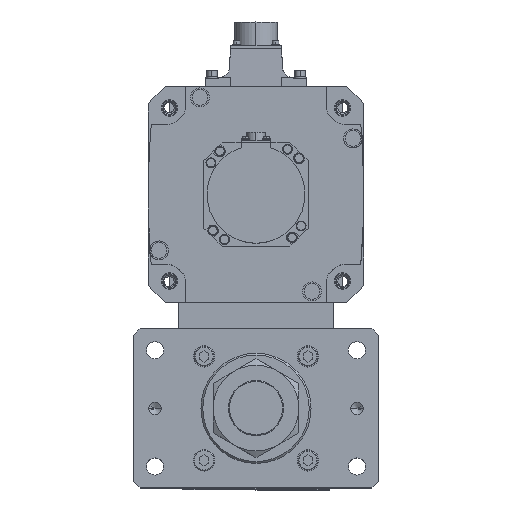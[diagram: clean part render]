
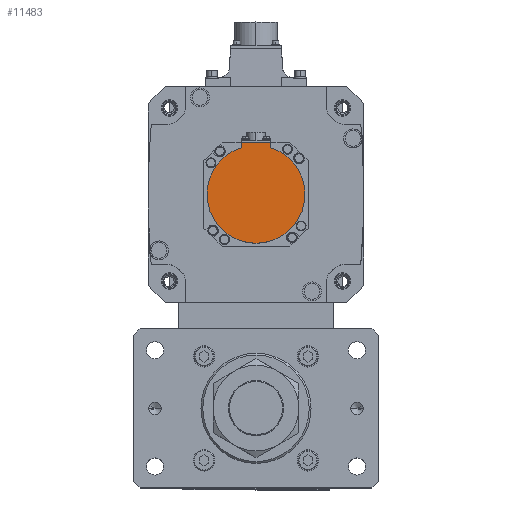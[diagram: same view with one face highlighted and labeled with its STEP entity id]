
A CAD part, top view. The second image highlights one B-rep face of the part: STEP entity #11483.
In plain terms, the highlighted planar face has unit normal (0, 0, 1) as drawn and (0, 0, -1) by its records, which use the part's own axes.
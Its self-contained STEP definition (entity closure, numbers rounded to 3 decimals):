
#28 = LINE ( 'NONE', #48425, #41487 ) ;
#336 = ORIENTED_EDGE ( 'NONE', *, *, #43232, .T. ) ;
#1745 = CIRCLE ( 'NONE', #19872, 40. ) ;
#3246 = ORIENTED_EDGE ( 'NONE', *, *, #32459, .F. ) ;
#4711 = DIRECTION ( 'NONE',  ( -1., 0., 0. ) ) ;
#4803 = EDGE_CURVE ( 'NONE', #36766, #39613, #33704, .T. ) ;
#4831 = DIRECTION ( 'NONE',  ( 0., 1., 0. ) ) ;
#4870 = DIRECTION ( 'NONE',  ( 1., 0., 0. ) ) ;
#5526 = VECTOR ( 'NONE', #4831, 1000. ) ;
#9075 = CARTESIAN_POINT ( 'NONE',  ( 0., 0., -138.5 ) ) ;
#9191 = DIRECTION ( 'NONE',  ( 1., 0., 0. ) ) ;
#9712 = PLANE ( 'NONE',  #47337 ) ;
#10532 = VERTEX_POINT ( 'NONE', #35411 ) ;
#11483 = ADVANCED_FACE ( 'NONE', ( #35889 ), #9712, .F. ) ;
#11771 = CARTESIAN_POINT ( 'NONE',  ( -12., -38.158, -138.5 ) ) ;
#12323 = ORIENTED_EDGE ( 'NONE', *, *, #24612, .F. ) ;
#12894 = CARTESIAN_POINT ( 'NONE',  ( 12., -1.249, -138.5 ) ) ;
#16277 = DIRECTION ( 'NONE',  ( 1., 0., 0. ) ) ;
#19872 = AXIS2_PLACEMENT_3D ( 'NONE', #20652, #40673, #4870 ) ;
#20113 = ORIENTED_EDGE ( 'NONE', *, *, #4803, .T. ) ;
#20652 = CARTESIAN_POINT ( 'NONE',  ( 0., 0., -138.5 ) ) ;
#21088 = AXIS2_PLACEMENT_3D ( 'NONE', #40000, #40362, #16277 ) ;
#22006 = EDGE_CURVE ( 'NONE', #31258, #44030, #33679, .T. ) ;
#23463 = CIRCLE ( 'NONE', #36294, 40. ) ;
#24612 = EDGE_CURVE ( 'NONE', #10532, #31258, #23463, .T. ) ;
#25345 = CARTESIAN_POINT ( 'NONE',  ( 0., -1.249, -138.5 ) ) ;
#27996 = EDGE_LOOP ( 'NONE', ( #20113, #32824, #43302, #12323, #3246, #336 ) ) ;
#28992 = CARTESIAN_POINT ( 'NONE',  ( 40., 0., -138.5 ) ) ;
#29390 = CARTESIAN_POINT ( 'NONE',  ( -12., -40.329, -138.5 ) ) ;
#31258 = VERTEX_POINT ( 'NONE', #28992 ) ;
#32459 = EDGE_CURVE ( 'NONE', #46838, #10532, #36882, .T. ) ;
#32824 = ORIENTED_EDGE ( 'NONE', *, *, #48796, .F. ) ;
#33356 = CARTESIAN_POINT ( 'NONE',  ( 12., -42.5, -138.5 ) ) ;
#33459 = CARTESIAN_POINT ( 'NONE',  ( -12., -42.5, -138.5 ) ) ;
#33679 = CIRCLE ( 'NONE', #21088, 40. ) ;
#33704 = LINE ( 'NONE', #29390, #37487 ) ;
#33776 = DIRECTION ( 'NONE',  ( 0., 0., 1. ) ) ;
#35411 = CARTESIAN_POINT ( 'NONE',  ( 12., -38.158, -138.5 ) ) ;
#35889 = FACE_OUTER_BOUND ( 'NONE', #27996, .T. ) ;
#36294 = AXIS2_PLACEMENT_3D ( 'NONE', #9075, #33776, #45555 ) ;
#36766 = VERTEX_POINT ( 'NONE', #33459 ) ;
#36882 = LINE ( 'NONE', #12894, #5526 ) ;
#37487 = VECTOR ( 'NONE', #41507, 1000. ) ;
#39613 = VERTEX_POINT ( 'NONE', #11771 ) ;
#40000 = CARTESIAN_POINT ( 'NONE',  ( 0., 0., -138.5 ) ) ;
#40362 = DIRECTION ( 'NONE',  ( 0., 0., 1. ) ) ;
#40673 = DIRECTION ( 'NONE',  ( 0., 0., 1. ) ) ;
#41487 = VECTOR ( 'NONE', #4711, 1000. ) ;
#41507 = DIRECTION ( 'NONE',  ( 0., 1., 0. ) ) ;
#43232 = EDGE_CURVE ( 'NONE', #46838, #36766, #28, .T. ) ;
#43302 = ORIENTED_EDGE ( 'NONE', *, *, #22006, .F. ) ;
#44030 = VERTEX_POINT ( 'NONE', #50435 ) ;
#45555 = DIRECTION ( 'NONE',  ( 1., 0., 0. ) ) ;
#46838 = VERTEX_POINT ( 'NONE', #33356 ) ;
#47337 = AXIS2_PLACEMENT_3D ( 'NONE', #25345, #49886, #9191 ) ;
#48425 = CARTESIAN_POINT ( 'NONE',  ( 0., -42.5, -138.5 ) ) ;
#48796 = EDGE_CURVE ( 'NONE', #44030, #39613, #1745, .T. ) ;
#49886 = DIRECTION ( 'NONE',  ( 0., 0., 1. ) ) ;
#50435 = CARTESIAN_POINT ( 'NONE',  ( -40., 0., -138.5 ) ) ;
